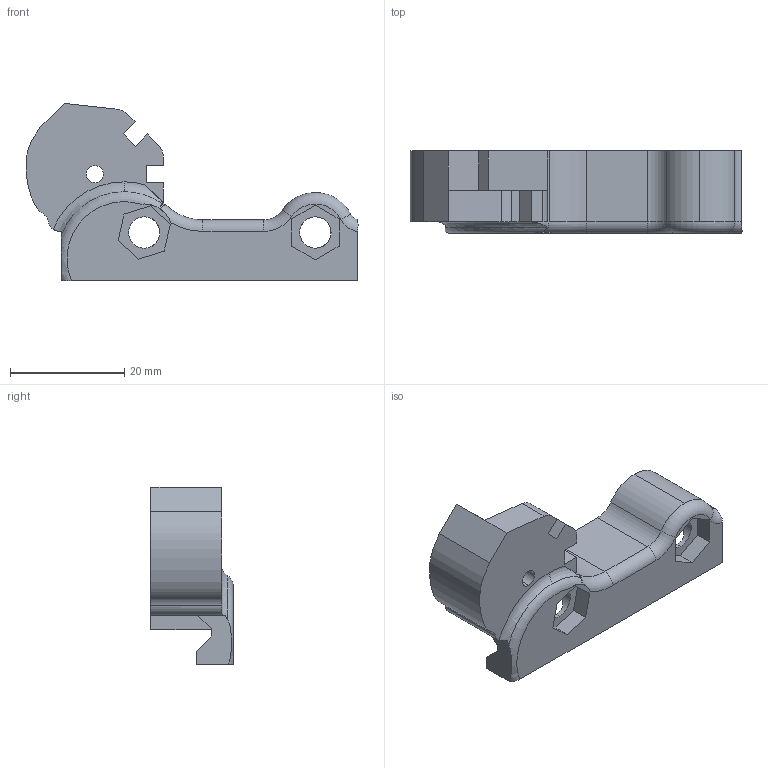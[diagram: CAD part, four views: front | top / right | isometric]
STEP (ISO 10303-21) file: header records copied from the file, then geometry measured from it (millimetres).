
FILE_DESCRIPTION (( 'STEP AP203' ), '1' );
FILE_NAME ('43x 93R style foregrip left.STEP', '2020-12-17T02:50:16', ( '' ), ( '' ), 'SwSTEP 2.0', 'SolidWorks 2016', '' );
FILE_SCHEMA (( 'CONFIG_CONTROL_DESIGN' ));
Length unit declared in the file: millimetre
Products named in the file (1): 43x 93R style foregrip left
Bounding box: 58.18 x 14.44 x 31.06 mm (x, y, z)
Volume: 7321.3 mm3; surface area: 5028.2 mm2
Topology: 3 solids, 3 shells, 93 faces, 253 edges, 166 vertices
Faces by surface type: plane 63, cylinder 22, torus 7, bspline 1
Entity records: 3109 total; most frequent: CARTESIAN_POINT 660, ORIENTED_EDGE 506, DIRECTION 478, EDGE_CURVE 253, LINE 178, VECTOR 178, VERTEX_POINT 166, AXIS2_PLACEMENT_3D 150
